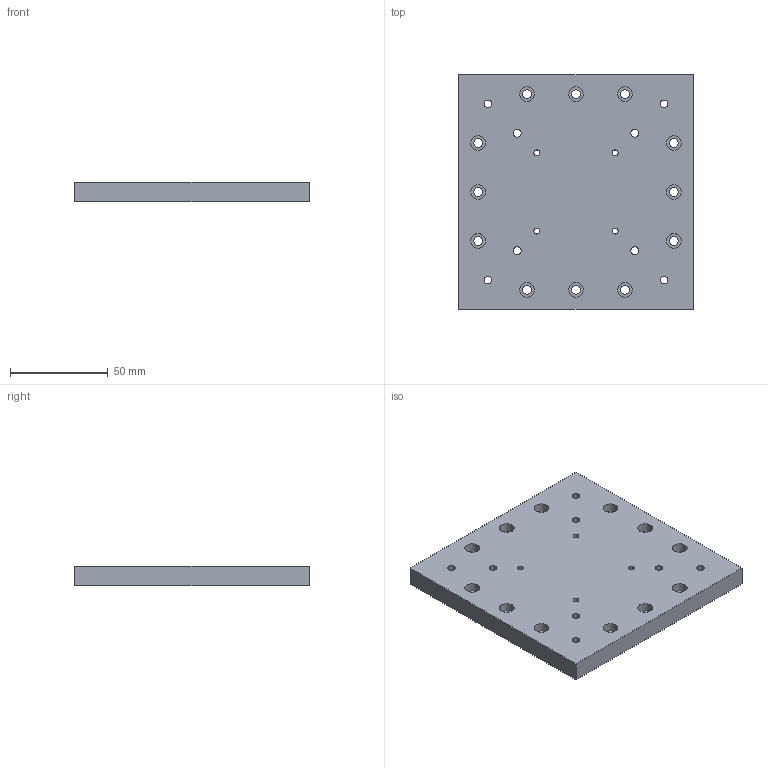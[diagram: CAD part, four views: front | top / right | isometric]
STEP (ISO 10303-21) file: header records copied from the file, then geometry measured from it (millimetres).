
FILE_DESCRIPTION( (''), '2;1');
FILE_NAME ('SPT-12.stp','2020-07-22T08:47:00',(''),(''),'spGate 15.6.6','','');
FILE_SCHEMA (('AUTOMOTIVE_DESIGN'));
Length unit declared in the file: millimetre
Products named in the file (2): Assembly; SPT-12-prt0
Assembly tree (1 placements, depth 2):
  Assembly
    SPT-12-prt0
Bounding box: 120 x 120 x 10 mm (x, y, z)
Volume: 139276.6 mm3; surface area: 36548.4 mm2
Topology: 1 solids, 1 shells, 90 faces, 228 edges, 152 vertices
Faces by surface type: cylinder 72, plane 18
Entity records: 4656 total; most frequent: CARTESIAN_POINT 546, DIRECTION 488, ORIENTED_EDGE 456, COLOUR_RGB 319, PRESENTATION_STYLE_ASSIGNMENT 319, STYLED_ITEM 319, AXIS2_PLACEMENT_3D 238, EDGE_CURVE 228
